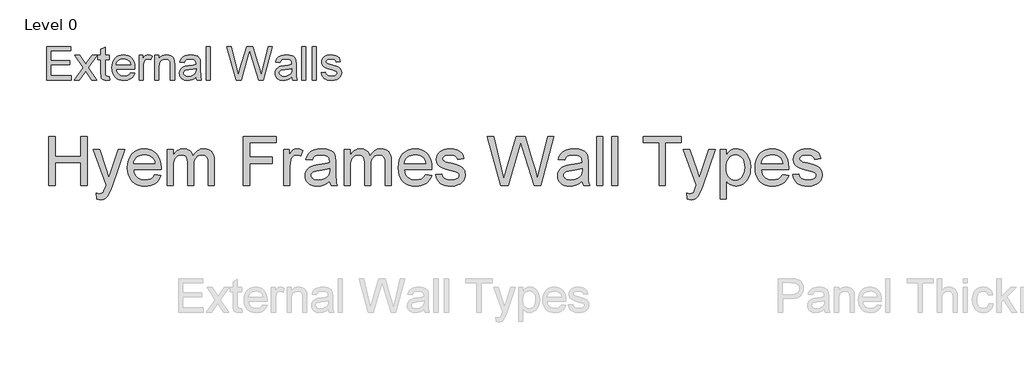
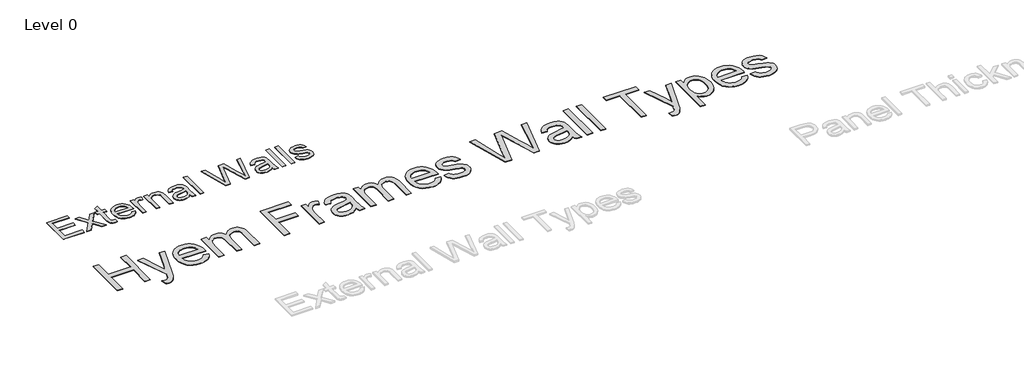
# One storey, part 5 of 11: 2 proxies.
"""IFC4 building model written with IfcOpenShell, lengths in millimetres."""

from ifc_helpers import new_model, si_unit, origin, origin_with_axes, place, context, project, spatial, polyline, outline, extrude, element, save

model = new_model("IFC4")

# Units and contexts
model_context = context("Model", 3, world=origin())
ifc_project = project(units=[si_unit("LENGTHUNIT", "METRE", prefix="MILLI")], contexts=[model_context])

# Site, building, storey
site = spatial("IfcSite", under=ifc_project)
building = spatial("IfcBuilding", under=site)
storey = spatial("IfcBuildingStorey", under=building, Name="Level 0", Elevation=0.0)

# Proxies
placement = place(None, origin())
element("IfcBuildingElementProxy", 1, Name="600mm Arial-700", ObjectType="600mm Arial-700", at=placement, inside=storey, context=model_context, shape_type="SweptSolid", body=[
    extrude(outline(polyline([(8655.2052745, 7494.3952476), (8655.2052745, 8193.8603586), (8742.6384134, 8193.8603586), (8742.6384134, 7909.7026573), (9114.2292537, 7909.7026573), (9114.2292537, 8193.8603586), (9201.6623925, 8193.8603586), (9201.6623925, 7494.3952476), (9114.2292537, 7494.3952476), (9114.2292537, 7822.2695184), (8742.6384134, 7822.2695184), (8742.6384134, 7494.3952476), (8655.2052745, 7494.3952476)])), origin_with_axes(), (0.0, 0.0, 1.0), 8.0),
    extrude(outline(polyline([(9343.7412432, 7297.6706851), (9332.8121009, 7381.8592349), (9356.6342159, 7376.0958199), (9377.2117417, 7374.1746816), (9400.5642451, 7376.5867775), (9418.7083291, 7383.8230651), (9432.8393686, 7395.3712409), (9444.1527387, 7410.7190014), (9468.0602376, 7475.0984806), (9474.8909515, 7496.2736939), (9289.0955314, 8008.0649385), (9381.1394022, 8008.0649385), (9479.8432192, 7722.7118622), (9514.1675569, 7608.6389388), (9548.4918946, 7709.5627378), (9649.7572293, 8008.0649385), (9741.1180287, 8008.0649385), (9562.3240904, 7482.0999624), (9535.7696898, 7412.1705281), (9515.8752354, 7368.0270391), (9492.0958124, 7331.6107952), (9465.1571841, 7306.3798454), (9433.9066677, 7291.6511184), (9397.1915801, 7286.7415428), (9371.7898625, 7289.4738283), (9343.7412432, 7297.6706851)])), origin_with_axes(), (0.0, 0.0, 1.0), 8.0),
    extrude(outline(polyline([(10173.3314555, 7647.4032406), (10259.0569159, 7636.4740983), (10245.913128, 7602.1390876), (10228.1692811, 7571.8811592), (10205.8253753, 7545.7003133), (10178.8814106, 7523.5965498), (10147.6148847, 7506.0394803), (10112.3032953, 7493.4987164), (10072.9466425, 7485.974258), (10029.5449263, 7483.4661052), (9975.2941152, 7487.7940029), (9926.9561408, 7500.777696), (9884.5310032, 7522.4171844), (9848.0187024, 7552.7124682), (9818.6573053, 7590.820381), (9797.6848788, 7635.8977568), (9785.1014229, 7687.9445954), (9780.9069376, 7746.9608968), (9785.1441149, 7807.978384), (9797.8556467, 7861.7595836), (9819.041533, 7908.3044955), (9848.7017738, 7947.6131198), (9885.1180177, 7978.8422903), (9926.5719131, 8001.1488406), (9973.0634601, 8014.5327708), (10024.5926587, 8018.9940809), (10074.4622072, 8014.5434438), (10119.5609289, 8001.1915326), (10159.8888239, 7978.9383472), (10195.445892, 7947.7838877), (10224.4710899, 7908.5606473), (10245.2033741, 7862.1011193), (10257.6427446, 7808.4053036), (10261.7892015, 7747.4732004), (10261.2768979, 7723.9072372), (9868.3400765, 7723.9072372), (9873.4044105, 7689.0172309), (9883.4743772, 7658.4604589), (9898.5499764, 7632.236921), (9918.6312082, 7610.3466173), (9942.6080815, 7593.0883915), (9969.3706054, 7580.7610874), (9998.9187798, 7573.3647049), (10031.2526048, 7570.8992441), (10077.7868438, 7575.4672841), (10116.9780652, 7589.171404), (10133.8200443, 7599.6629537), (10148.8262691, 7612.8654431), (10173.3314555, 7647.4032406)]), holes=[polyline([(9868.3400765, 7811.340376), (10174.3560626, 7811.340376), (10169.8627336, 7836.0803682), (10162.530389, 7857.5330793), (10152.359029, 7875.6985093), (10139.3486535, 7890.5766581), (10115.5051925, 7908.5072823), (10088.3744504, 7921.314871), (10057.9564273, 7928.9994243), (10024.251123, 7931.560942), (9993.5075736, 7929.5170643), (9965.314869, 7923.3854312), (9939.6730091, 7913.1660427), (9916.581994, 7898.8588988), (9897.2051795, 7881.125725), (9882.7059218, 7860.6282466), (9873.0842208, 7837.3664636), (9868.3400765, 7811.340376)])]), origin_with_axes(), (0.0, 0.0, 1.0), 8.0),
    extrude(outline(polyline([(10349.2223404, 7494.3952476), (10349.2223404, 8008.0649385), (10436.6554792, 8008.0649385), (10436.6554792, 7923.5348531), (10462.953728, 7962.3631928), (10496.7657622, 7992.781216), (10516.2012781, 8004.2493444), (10536.9388988, 8012.4408647), (10558.9786243, 8017.3557768), (10582.3204548, 8018.9940809), (10607.8395752, 8017.3237579), (10630.9465999, 8012.3127888), (10651.6415286, 8003.9611736), (10669.9243615, 7992.2689125), (10685.7417335, 7977.5668679), (10699.0402798, 7960.1859028), (10709.8200003, 7940.1260169), (10718.080895, 7917.3872105), (10749.9504449, 7961.8402163), (10786.3026508, 7993.5923633), (10806.1597498, 8004.7056147), (10827.1375128, 8012.6436515), (10849.2359398, 8017.4064735), (10872.4550308, 8018.9940809), (10907.4571035, 8016.3525157), (10938.1793069, 8008.4278202), (10964.6216411, 7995.2199944), (10986.784106, 7976.7290382), (11004.3038201, 7952.7414918), (11016.8179015, 7923.0438955), (11024.3263504, 7887.6362492), (11026.8291667, 7846.518553), (11026.8291667, 7494.3952476), (10939.3960278, 7494.3952476), (10939.3960278, 7808.9496261), (10937.3681596, 7852.5594657), (10931.284555, 7881.9528818), (10919.885801, 7902.082142), (10901.9124849, 7917.8995141), (10878.7947873, 7928.145585), (10851.9628889, 7931.560942), (10827.1855413, 7929.3729789), (10804.5961567, 7922.8090897), (10784.1947352, 7911.8692744), (10765.9812768, 7896.5535329), (10751.0017345, 7876.4135996), (10740.3020614, 7851.0012091), (10733.8822576, 7820.3163611), (10731.742323, 7784.3590558), (10731.742323, 7494.3952476), (10644.3091841, 7494.3952476), (10644.3091841, 7818.6833936), (10639.2501865, 7868.120686), (10632.9264396, 7887.5241828), (10624.0731939, 7903.3842469), (10612.3382408, 7915.711551), (10597.3693715, 7924.5167682), (10579.166586, 7929.7998986), (10557.7298844, 7931.560942), (10524.0459262, 7926.8648261), (10493.0088695, 7912.7764786), (10467.3936921, 7889.637435), (10449.9753715, 7857.7892311), (10439.9854523, 7813.60305), (10436.6554792, 7753.4500751), (10436.6554792, 7494.3952476), (10349.2223404, 7494.3952476)])), origin_with_axes(), (0.0, 0.0, 1.0), 8.0),
    extrude(outline(polyline([(11442.1365764, 7494.3952476), (11442.1365764, 8193.8603586), (11912.0896979, 8193.8603586), (11912.0896979, 8106.4272198), (11529.5697153, 8106.4272198), (11529.5697153, 7898.7735149), (11857.4439861, 7898.7735149), (11857.4439861, 7811.340376), (11529.5697153, 7811.340376), (11529.5697153, 7494.3952476), (11442.1365764, 7494.3952476)])), origin_with_axes(), (0.0, 0.0, 1.0), 8.0),
    extrude(outline(polyline([(12021.3811215, 7494.3952476), (12021.3811215, 8008.0649385), (12097.885118, 8008.0649385), (12097.885118, 7932.0732455), (12126.1471971, 7976.1313507), (12152.1892941, 8002.0880638), (12178.316775, 8014.7675766), (12206.8350059, 8018.9940809), (12228.5225228, 8017.3077484), (12250.3808075, 8012.2487508), (12294.6096805, 7992.0127607), (12265.4083782, 7913.6303178), (12234.6701653, 7927.078286), (12203.9319524, 7931.560942), (12177.8258175, 7927.2490538), (12154.49466, 7914.3133892), (12135.6461587, 7893.7358634), (12122.9879918, 7866.4983914), (12112.3576932, 7817.6587865), (12108.8142603, 7764.3792175), (12108.8142603, 7494.3952476), (12021.3811215, 7494.3952476)])), origin_with_axes(), (0.0, 0.0, 1.0), 8.0),
    extrude(outline(polyline([(12677.1296631, 7559.9701018), (12635.3555779, 7524.1515453), (12592.3434259, 7500.713658), (12547.1112917, 7487.7779934), (12498.6772605, 7483.4661052), (12459.7475273, 7486.0596419), (12425.6099669, 7493.8402521), (12396.2645793, 7506.8079356), (12371.7113645, 7524.9626926), (12352.3238771, 7547.1518401), (12338.4756718, 7572.2226949), (12330.1667486, 7600.1752573), (12327.3971075, 7631.0095271), (12331.5809199, 7667.2550031), (12344.1323568, 7700.1705061), (12363.4931617, 7728.3472012), (12388.105078, 7750.3762538), (12417.0288825, 7767.0261191), (12449.325352, 7779.0652525), (12524.9755093, 7792.2143769), (12614.3724784, 7806.0465727), (12676.6173595, 7822.2695184), (12677.1296631, 7841.7370532), (12675.6247714, 7862.9336125), (12671.1100964, 7880.7575068), (12663.585638, 7895.2087361), (12653.0513963, 7906.2873003), (12634.8432744, 7917.3445185), (12612.6647999, 7925.2425316), (12586.515973, 7929.9813394), (12556.3967936, 7931.560942), (12504.3125995, 7927.3557837), (12484.1619933, 7922.0993358), (12467.9390476, 7914.7403088), (12454.6084823, 7904.7023612), (12443.1350175, 7891.4091514), (12425.7593888, 7855.0569455), (12338.3262499, 7865.9860878), (12353.5032425, 7913.8010857), (12376.1513285, 7951.3700125), (12390.8053446, 7966.664408), (12408.3837601, 7980.1017032), (12452.3137894, 8001.4049924), (12506.041624, 8014.5968088), (12567.6674716, 8018.9940809), (12626.7744935, 8015.1091123), (12673.6289222, 8003.4542066), (12708.956521, 7985.929156), (12733.4830534, 7964.433753), (12749.748691, 7937.8580064), (12760.2936057, 7905.0919253), (12764.5628019, 7828.5879288), (12764.5628019, 7719.8088088), (12765.672793, 7625.0539983), (12769.002766, 7567.9108068), (12775.5773282, 7530.3632259), (12786.4210867, 7494.3952476), (12698.9879478, 7494.3952476), (12684.9849841, 7524.7919248), (12677.1296631, 7559.9701018)]), holes=[polyline([(12677.1296631, 7734.8363795), (12618.3855229, 7720.2784204), (12536.0754195, 7708.0258272), (12490.7152095, 7701.3231891), (12460.8521818, 7693.8520957), (12441.2779171, 7684.1610202), (12426.7839959, 7670.798436), (12417.8186838, 7654.7889501), (12414.8302464, 7637.1571697), (12416.4578775, 7623.5704527), (12421.3407707, 7611.1577646), (12429.478926, 7599.9191055), (12440.8723435, 7589.8544754), (12455.4142931, 7581.5615617), (12472.9980451, 7575.6380519), (12517.290956, 7570.8992441), (12564.2521146, 7576.1290095), (12605.748702, 7591.8183057), (12639.3899684, 7614.9360033), (12662.7851637, 7642.450973), (12673.1593106, 7670.798436), (12676.6173595, 7710.0750414), (12677.1296631, 7734.8363795)])]), origin_with_axes(), (0.0, 0.0, 1.0), 8.0),
    extrude(outline(polyline([(12884.7833679, 7494.3952476), (12884.7833679, 8008.0649385), (12972.2165068, 8008.0649385), (12972.2165068, 7923.5348531), (12998.5147556, 7962.3631928), (13032.3267898, 7992.781216), (13051.7623056, 8004.2493444), (13072.4999263, 8012.4408647), (13094.5396519, 8017.3557768), (13117.8814823, 8018.9940809), (13143.4006028, 8017.3237579), (13166.5076274, 8012.3127888), (13187.2025562, 8003.9611736), (13205.485389, 7992.2689125), (13221.3027611, 7977.5668679), (13234.6013074, 7960.1859028), (13245.3810279, 7940.1260169), (13253.6419226, 7917.3872105), (13285.5114725, 7961.8402163), (13321.8636784, 7993.5923633), (13341.7207774, 8004.7056147), (13362.6985404, 8012.6436515), (13384.7969674, 8017.4064735), (13408.0160584, 8018.9940809), (13443.018131, 8016.3525157), (13473.7403344, 8008.4278202), (13500.1826686, 7995.2199944), (13522.3451336, 7976.7290382), (13539.8648476, 7952.7414918), (13552.3789291, 7923.0438955), (13559.8873779, 7887.6362492), (13562.3901942, 7846.518553), (13562.3901942, 7494.3952476), (13474.9570554, 7494.3952476), (13474.9570554, 7808.9496261), (13472.9291871, 7852.5594657), (13466.8455825, 7881.9528818), (13455.4468286, 7902.082142), (13437.4735124, 7917.8995141), (13414.3558148, 7928.145585), (13387.5239165, 7931.560942), (13362.7465688, 7929.3729789), (13340.1571843, 7922.8090897), (13319.7557628, 7911.8692744), (13301.5423043, 7896.5535329), (13286.562762, 7876.4135996), (13275.863089, 7851.0012091), (13269.4432851, 7820.3163611), (13267.3033505, 7784.3590558), (13267.3033505, 7494.3952476), (13179.8702116, 7494.3952476), (13179.8702116, 7818.6833936), (13174.8112141, 7868.120686), (13168.4874672, 7887.5241828), (13159.6342215, 7903.3842469), (13147.8992683, 7915.711551), (13132.930399, 7924.5167682), (13114.7276136, 7929.7998986), (13093.290912, 7931.560942), (13059.6069537, 7926.8648261), (13028.5698971, 7912.7764786), (13002.9547197, 7889.637435), (12985.536399, 7857.7892311), (12975.5464799, 7813.60305), (12972.2165068, 7753.4500751), (12972.2165068, 7494.3952476), (12884.7833679, 7494.3952476)])), origin_with_axes(), (0.0, 0.0, 1.0), 8.0),
    extrude(outline(polyline([(14053.1769933, 7647.4032406), (14138.9024537, 7636.4740983), (14125.7586658, 7602.1390876), (14108.014819, 7571.8811592), (14085.6709132, 7545.7003133), (14058.7269485, 7523.5965498), (14027.4604225, 7506.0394803), (13992.1488332, 7493.4987164), (13952.7921804, 7485.974258), (13909.3904642, 7483.4661052), (13855.139653, 7487.7940029), (13806.8016787, 7500.777696), (13764.3765411, 7522.4171844), (13727.8642403, 7552.7124682), (13698.5028432, 7590.820381), (13677.5304167, 7635.8977568), (13664.9469608, 7687.9445954), (13660.7524755, 7746.9608968), (13664.9896527, 7807.978384), (13677.7011845, 7861.7595836), (13698.8870708, 7908.3044955), (13728.5473117, 7947.6131198), (13764.9635556, 7978.8422903), (13806.417451, 8001.1488406), (13852.908998, 8014.5327708), (13904.4381965, 8018.9940809), (13954.3077451, 8014.5434438), (13999.4064668, 8001.1915326), (14039.7343617, 7978.9383472), (14075.2914298, 7947.7838877), (14104.3166277, 7908.5606473), (14125.048912, 7862.1011193), (14137.4882825, 7808.4053036), (14141.6347393, 7747.4732004), (14141.1224358, 7723.9072372), (13748.1856144, 7723.9072372), (13753.2499484, 7689.0172309), (13763.319915, 7658.4604589), (13778.3955142, 7632.236921), (13798.476746, 7610.3466173), (13822.4536194, 7593.0883915), (13849.2161432, 7580.7610874), (13878.7643177, 7573.3647049), (13911.0981427, 7570.8992441), (13957.6323816, 7575.4672841), (13996.8236031, 7589.171404), (14013.6655822, 7599.6629537), (14028.671807, 7612.8654431), (14053.1769933, 7647.4032406)]), holes=[polyline([(13748.1856144, 7811.340376), (14054.2016004, 7811.340376), (14049.7082714, 7836.0803682), (14042.3759269, 7857.5330793), (14032.2045668, 7875.6985093), (14019.1941913, 7890.5766581), (13995.3507304, 7908.5072823), (13968.2199883, 7921.314871), (13937.8019651, 7928.9994243), (13904.0966608, 7931.560942), (13873.3531115, 7929.5170643), (13845.1604068, 7923.3854312), (13819.5185469, 7913.1660427), (13796.4275318, 7898.8588988), (13777.0507174, 7881.125725), (13762.5514597, 7860.6282466), (13752.9297587, 7837.3664636), (13748.1856144, 7811.340376)])]), origin_with_axes(), (0.0, 0.0, 1.0), 8.0),
    extrude(outline(polyline([(14196.2804511, 7647.4032406), (14283.71359, 7658.332383), (14288.9967203, 7638.3952366), (14297.5030938, 7620.934224), (14309.2327105, 7605.9493452), (14324.1855703, 7593.4406002), (14342.4043652, 7583.5787569), (14363.9317873, 7576.5345831), (14416.9125125, 7570.8992441), (14469.2528584, 7576.0649716), (14489.5955784, 7582.5221309), (14506.0533299, 7591.5621539), (14518.7541887, 7602.3418744), (14527.8262307, 7614.0181261), (14533.2694559, 7626.590909), (14535.0838643, 7640.0602231), (14533.2587829, 7651.8645507), (14527.7835387, 7662.3454275), (14518.6581318, 7671.5028534), (14505.882562, 7679.3368285), (14473.1378269, 7690.4367387), (14415.8879054, 7704.2689345), (14336.0966278, 7727.3439401), (14284.2258936, 7747.0462807), (14250.9048169, 7768.5416838), (14226.7625122, 7796.9958767), (14212.0978232, 7830.5944511), (14207.2095935, 7867.5229985), (14211.137254, 7901.3990706), (14222.9202356, 7932.670933), (14241.4912392, 7960.1005188), (14265.7829658, 7982.4497611), (14289.9252705, 7996.5167627), (14321.3679008, 8008.3210903), (14357.7201067, 8016.3258332), (14396.5911384, 8018.9940809), (14453.4995243, 8014.7035387), (14502.9795086, 8001.831912), (14542.7684175, 7981.6386138), (14570.603577, 7955.383057), (14589.0465047, 7921.1227572), (14600.6587185, 7876.9152302), (14513.2255796, 7865.9860878), (14502.1897073, 7893.5010576), (14480.3527686, 7914.2280053), (14447.5013035, 7927.2277078), (14403.4218524, 7931.560942), (14353.2161047, 7927.4198217), (14334.3889493, 7922.2434212), (14319.7456062, 7914.9964606), (14300.9184508, 7897.0658364), (14296.211662, 7887.0759172), (14294.6427324, 7876.4029267), (14297.2469421, 7862.9549585), (14305.0595712, 7850.9585171), (14318.4221554, 7840.2428345), (14337.6762304, 7831.6617501), (14412.984852, 7813.0480545), (14490.2359578, 7790.2078547), (14541.3168908, 7771.8930028), (14575.2143089, 7752.2120082), (14600.9148702, 7725.27338), (14610.3658034, 7709.0611073), (14617.1164699, 7690.9917342), (14622.5170032, 7649.281687), (14620.9320641, 7627.4020563), (14616.1772468, 7606.162805), (14597.1579775, 7565.6054408), (14583.0749665, 7547.0824656), (14566.1849589, 7530.7901455), (14546.4879547, 7516.7284804), (14523.9839541, 7504.8974703), (14473.009751, 7488.8239465), (14415.7171376, 7483.4661052), (14368.6599221, 7486.048969), (14327.5582353, 7493.7975601), (14292.4120773, 7506.7118787), (14263.2214481, 7524.7919248), (14239.3779871, 7547.9523144), (14220.273334, 7576.1076635), (14205.9074886, 7609.2579723), (14196.2804511, 7647.4032406)])), origin_with_axes(), (0.0, 0.0, 1.0), 8.0),
    extrude(outline(polyline([(15130.2098194, 7494.3952476), (14939.4621316, 8193.8603586), (15029.6275561, 8193.8603586), (15140.2851225, 7734.1533081), (15174.4386924, 7592.2452253), (15210.9830121, 7717.7595946), (15349.6465058, 8193.8603586), (15479.6008392, 8193.8603586), (15580.3538703, 7848.7385351), (15623.5154443, 7720.662648), (15655.3209562, 7592.2452253), (15688.449919, 7730.0548797), (15799.9613246, 8193.8603586), (15890.2975169, 8193.8603586), (15699.720597, 7494.3952476), (15606.1398156, 7494.3952476), (15438.2750196, 8034.0216516), (15414.8798243, 8109.3302732), (15388.5815755, 8018.6525452), (15235.7443503, 7494.3952476), (15130.2098194, 7494.3952476)])), origin_with_axes(), (0.0, 0.0, 1.0), 8.0),
    extrude(outline(polyline([(16294.6757843, 7559.9701018), (16252.9016991, 7524.1515453), (16209.8895471, 7500.713658), (16164.657413, 7487.7779934), (16116.2233817, 7483.4661052), (16077.2936485, 7486.0596419), (16043.1560881, 7493.8402521), (16013.8107005, 7506.8079356), (15989.2574857, 7524.9626926), (15969.8699983, 7547.1518401), (15956.021793, 7572.2226949), (15947.7128698, 7600.1752573), (15944.9432288, 7631.0095271), (15949.1270411, 7667.2550031), (15961.678478, 7700.1705061), (15981.0392829, 7728.3472012), (16005.6511992, 7750.3762538), (16034.5750037, 7767.0261191), (16066.8714732, 7779.0652525), (16142.5216305, 7792.2143769), (16231.9185996, 7806.0465727), (16294.1634807, 7822.2695184), (16294.6757843, 7841.7370532), (16293.1708926, 7862.9336125), (16288.6562176, 7880.7575068), (16281.1317592, 7895.2087361), (16270.5975175, 7906.2873003), (16252.3893956, 7917.3445185), (16230.2109211, 7925.2425316), (16204.0620942, 7929.9813394), (16173.9429148, 7931.560942), (16121.8587207, 7927.3557837), (16101.7081145, 7922.0993358), (16085.4851688, 7914.7403088), (16072.1546035, 7904.7023612), (16060.6811387, 7891.4091514), (16043.30551, 7855.0569455), (15955.8723711, 7865.9860878), (15971.0493637, 7913.8010857), (15993.6974497, 7951.3700125), (16008.3514658, 7966.664408), (16025.9298813, 7980.1017032), (16069.8599106, 8001.4049924), (16123.5877452, 8014.5968088), (16185.2135928, 8018.9940809), (16244.3206147, 8015.1091123), (16291.1750434, 8003.4542066), (16326.5026422, 7985.929156), (16351.0291746, 7964.433753), (16367.2948122, 7937.8580064), (16377.8397269, 7905.0919253), (16382.1089232, 7828.5879288), (16382.1089232, 7719.8088088), (16383.2189142, 7625.0539983), (16386.5488872, 7567.9108068), (16393.1234494, 7530.3632259), (16403.9672079, 7494.3952476), (16316.534069, 7494.3952476), (16302.5311053, 7524.7919248), (16294.6757843, 7559.9701018)]), holes=[polyline([(16294.6757843, 7734.8363795), (16235.9316441, 7720.2784204), (16153.6215407, 7708.0258272), (16108.2613307, 7701.3231891), (16078.398303, 7693.8520957), (16058.8240383, 7684.1610202), (16044.3301171, 7670.798436), (16035.364805, 7654.7889501), (16032.3763676, 7637.1571697), (16034.0039987, 7623.5704527), (16038.8868919, 7611.1577646), (16047.0250472, 7599.9191055), (16058.4184647, 7589.8544754), (16072.9604143, 7581.5615617), (16090.5441663, 7575.6380519), (16134.8370773, 7570.8992441), (16181.7982358, 7576.1290095), (16223.2948232, 7591.8183057), (16256.9360896, 7614.9360033), (16280.3312849, 7642.450973), (16290.7054318, 7670.798436), (16294.1634807, 7710.0750414), (16294.6757843, 7734.8363795)])]), origin_with_axes(), (0.0, 0.0, 1.0), 8.0),
    extrude(outline(polyline([(16502.3294891, 7494.3952476), (16502.3294891, 8193.8603586), (16589.762628, 8193.8603586), (16589.762628, 7494.3952476), (16502.3294891, 7494.3952476)])), origin_with_axes(), (0.0, 0.0, 1.0), 8.0),
    extrude(outline(polyline([(16720.9123363, 7494.3952476), (16720.9123363, 8193.8603586), (16808.3454752, 8193.8603586), (16808.3454752, 7494.3952476), (16720.9123363, 7494.3952476)])), origin_with_axes(), (0.0, 0.0, 1.0), 8.0),
    extrude(outline(polyline([(17398.5191626, 7494.3952476), (17398.5191626, 8106.4272198), (17169.0071731, 8106.4272198), (17169.0071731, 8193.8603586), (17715.4642911, 8193.8603586), (17715.4642911, 8106.4272198), (17485.9523015, 8106.4272198), (17485.9523015, 7494.3952476), (17398.5191626, 7494.3952476)])), origin_with_axes(), (0.0, 0.0, 1.0), 8.0),
    extrude(outline(polyline([(17802.89743, 7297.6706851), (17791.9682876, 7381.8592349), (17815.7904026, 7376.0958199), (17836.3679285, 7374.1746816), (17859.7204319, 7376.5867775), (17877.8645159, 7383.8230651), (17891.9955554, 7395.3712409), (17903.3089254, 7410.7190014), (17927.2164243, 7475.0984806), (17934.0471383, 7496.2736939), (17748.2517182, 8008.0649385), (17840.295589, 8008.0649385), (17938.9994059, 7722.7118622), (17973.3237437, 7608.6389388), (18007.6480814, 7709.5627378), (18108.9134161, 8008.0649385), (18200.2742155, 8008.0649385), (18021.4802772, 7482.0999624), (17994.9258766, 7412.1705281), (17975.0314221, 7368.0270391), (17951.2519991, 7331.6107952), (17924.3133709, 7306.3798454), (17893.0628544, 7291.6511184), (17856.3477668, 7286.7415428), (17830.9460492, 7289.4738283), (17802.89743, 7297.6706851)])), origin_with_axes(), (0.0, 0.0, 1.0), 8.0),
    extrude(outline(polyline([(18272.8505515, 7297.6706851), (18272.8505515, 8008.0649385), (18360.2836903, 8008.0649385), (18360.2836903, 7922.3394781), (18388.8019212, 7964.6258668), (18420.735509, 7994.8304302), (18438.4526734, 8005.4020274), (18457.9629002, 8012.9531682), (18479.2661894, 8017.4838527), (18502.362541, 8018.9940809), (18532.8552751, 8016.8808287), (18561.4909089, 8010.5410723), (18588.2694423, 7999.9748117), (18613.1908753, 7985.1820467), (18635.7108854, 7966.5470051), (18655.2851501, 7944.4539146), (18671.9136695, 7918.9027752), (18685.5964434, 7889.8935868), (18696.280107, 7858.4189375), (18703.9112953, 7825.4714156), (18710.0162459, 7755.1577536), (18708.2925579, 7716.7830159), (18703.1214939, 7680.3827815), (18694.5030541, 7645.9570504), (18682.4372382, 7613.5058225), (18667.0894777, 7583.8776007), (18648.625204, 7557.9208876), (18627.0444171, 7535.6356832), (18602.3471168, 7517.0219876), (18575.7446878, 7502.3412891), (18548.4485144, 7491.8550758), (18520.4585966, 7485.5633479), (18491.7749344, 7483.4661052), (18451.5804518, 7489.0800983), (18415.6978575, 7505.9220774), (18384.9809906, 7531.345141), (18360.2836903, 7562.7023873), (18360.2836903, 7297.6706851), (18272.8505515, 7297.6706851)]), holes=[polyline([(18360.2836903, 7747.1316647), (18362.6477578, 7704.9946978), (18369.73996, 7668.7492218), (18381.5602971, 7638.3952366), (18398.108769, 7613.9327422), (18418.0299059, 7595.1055868), (18439.9682381, 7581.6576186), (18463.9237654, 7573.5888377), (18489.896488, 7570.8992441), (18516.2427653, 7573.6848947), (18540.6358853, 7582.0418463), (18563.075848, 7595.970099), (18583.5626534, 7615.4696528), (18600.6341018, 7640.8180054), (18612.8279936, 7672.2926547), (18620.1443286, 7709.8936005), (18622.583107, 7753.6208429), (18620.2030301, 7795.3949281), (18613.0627994, 7831.5763662), (18601.1624149, 7862.1651572), (18584.5018766, 7887.1613012), (18564.5327112, 7906.586144), (18542.7064454, 7920.4610318), (18519.0230793, 7928.7859644), (18493.4826129, 7931.560942), (18468.0221938, 7928.6098601), (18444.0666664, 7919.7566144), (18421.6160307, 7905.0012049), (18400.6702867, 7884.3436316), (18383.0011508, 7858.0613923), (18370.3803394, 7826.4319847), (18362.8078526, 7789.4554088), (18360.2836903, 7747.1316647)])]), origin_with_axes(), (0.0, 0.0, 1.0), 8.0),
    extrude(outline(polyline([(19168.0156179, 7647.4032406), (19253.7410783, 7636.4740983), (19240.5972904, 7602.1390876), (19222.8534435, 7571.8811592), (19200.5095377, 7545.7003133), (19173.565573, 7523.5965498), (19142.2990471, 7506.0394803), (19106.9874577, 7493.4987164), (19067.6308049, 7485.974258), (19024.2290887, 7483.4661052), (18969.9782776, 7487.7940029), (18921.6403032, 7500.777696), (18879.2151656, 7522.4171844), (18842.7028648, 7552.7124682), (18813.3414677, 7590.820381), (18792.3690412, 7635.8977568), (18779.7855853, 7687.9445954), (18775.5911, 7746.9608968), (18779.8282773, 7807.978384), (18792.5398091, 7861.7595836), (18813.7256954, 7908.3044955), (18843.3859362, 7947.6131198), (18879.8021801, 7978.8422903), (18921.2560755, 8001.1488406), (18967.7476225, 8014.5327708), (19019.2768211, 8018.9940809), (19069.1463696, 8014.5434438), (19114.2450913, 8001.1915326), (19154.5729863, 7978.9383472), (19190.1300544, 7947.7838877), (19219.1552523, 7908.5606473), (19239.8875365, 7862.1011193), (19252.326907, 7808.4053036), (19256.4733639, 7747.4732004), (19255.9610603, 7723.9072372), (18863.0242389, 7723.9072372), (18868.0885729, 7689.0172309), (18878.1585396, 7658.4604589), (18893.2341388, 7632.236921), (18913.3153706, 7610.3466173), (18937.2922439, 7593.0883915), (18964.0547678, 7580.7610874), (18993.6029422, 7573.3647049), (19025.9367672, 7570.8992441), (19072.4710062, 7575.4672841), (19111.6622276, 7589.171404), (19128.5042067, 7599.6629537), (19143.5104315, 7612.8654431), (19168.0156179, 7647.4032406)]), holes=[polyline([(18863.0242389, 7811.340376), (19169.040225, 7811.340376), (19164.546896, 7836.0803682), (19157.2145514, 7857.5330793), (19147.0431914, 7875.6985093), (19134.0328159, 7890.5766581), (19110.1893549, 7908.5072823), (19083.0586128, 7921.314871), (19052.6405897, 7928.9994243), (19018.9352854, 7931.560942), (18988.191736, 7929.5170643), (18959.9990314, 7923.3854312), (18934.3571715, 7913.1660427), (18911.2661564, 7898.8588988), (18891.8893419, 7881.125725), (18877.3900842, 7860.6282466), (18867.7683832, 7837.3664636), (18863.0242389, 7811.340376)])]), origin_with_axes(), (0.0, 0.0, 1.0), 8.0),
    extrude(outline(polyline([(19311.1190757, 7647.4032406), (19398.5522146, 7658.332383), (19403.8353449, 7638.3952366), (19412.3417184, 7620.934224), (19424.071335, 7605.9493452), (19439.0241949, 7593.4406002), (19457.2429898, 7583.5787569), (19478.7704118, 7576.5345831), (19531.7511371, 7570.8992441), (19584.0914829, 7576.0649716), (19604.434203, 7582.5221309), (19620.8919544, 7591.5621539), (19633.5928132, 7602.3418744), (19642.6648552, 7614.0181261), (19648.1080804, 7626.590909), (19649.9224888, 7640.0602231), (19648.0974074, 7651.8645507), (19642.6221633, 7662.3454275), (19633.4967563, 7671.5028534), (19620.7211866, 7679.3368285), (19587.9764515, 7690.4367387), (19530.72653, 7704.2689345), (19450.9352524, 7727.3439401), (19399.0645181, 7747.0462807), (19365.7434415, 7768.5416838), (19341.6011368, 7796.9958767), (19326.9364477, 7830.5944511), (19322.048218, 7867.5229985), (19325.9758786, 7901.3990706), (19337.7588602, 7932.670933), (19356.3298638, 7960.1005188), (19380.6215904, 7982.4497611), (19404.7638951, 7996.5167627), (19436.2065253, 8008.3210903), (19472.5587313, 8016.3258332), (19511.429763, 8018.9940809), (19568.3381488, 8014.7035387), (19617.8181332, 8001.831912), (19657.6070421, 7981.6386138), (19685.4422015, 7955.383057), (19703.8851292, 7921.1227572), (19715.497343, 7876.9152302), (19628.0642041, 7865.9860878), (19617.0283319, 7893.5010576), (19595.1913931, 7914.2280053), (19562.3399281, 7927.2277078), (19518.260477, 7931.560942), (19468.0547293, 7927.4198217), (19449.2275739, 7922.2434212), (19434.5842308, 7914.9964606), (19415.7570754, 7897.0658364), (19411.0502865, 7887.0759172), (19409.4813569, 7876.4029267), (19412.0855666, 7862.9549585), (19419.8981957, 7850.9585171), (19433.2607799, 7840.2428345), (19452.514855, 7831.6617501), (19527.8234765, 7813.0480545), (19605.0745824, 7790.2078547), (19656.1555153, 7771.8930028), (19690.0529334, 7752.2120082), (19715.7534948, 7725.27338), (19725.2044279, 7709.0611073), (19731.9550945, 7690.9917342), (19737.3556277, 7649.281687), (19735.7706886, 7627.4020563), (19731.0158713, 7606.162805), (19711.9966021, 7565.6054408), (19697.913591, 7547.0824656), (19681.0235834, 7530.7901455), (19661.3265793, 7516.7284804), (19638.8225786, 7504.8974703), (19587.8483756, 7488.8239465), (19530.5557621, 7483.4661052), (19483.4985466, 7486.048969), (19442.3968599, 7493.7975601), (19407.2507019, 7506.7118787), (19378.0600726, 7524.7919248), (19354.2166117, 7547.9523144), (19335.1119585, 7576.1076635), (19320.7461132, 7609.2579723), (19311.1190757, 7647.4032406)])), origin_with_axes(), (0.0, 0.0, 1.0), 8.0),
])
element("IfcBuildingElementProxy", 2, Name="Arial-500 Blanco", ObjectType="Arial-500 Blanco", at=placement, inside=storey, context=model_context, shape_type="SweptSolid", body=[
    extrude(outline(polyline([(8621.1611613, 9007.7439374), (8621.1611613, 9487.3771564), (8965.8975375, 9487.3771564), (8965.8975375, 9427.423004), (8681.1153137, 9427.423004), (8681.1153137, 9285.0318921), (8950.9089994, 9285.0318921), (8950.9089994, 9225.0777398), (8681.1153137, 9225.0777398), (8681.1153137, 9067.6980898), (8973.3918065, 9067.6980898), (8973.3918065, 9007.7439374), (8621.1611613, 9007.7439374)])), origin_with_axes(), (0.0, 0.0, 1.0), 8.0),
    extrude(outline(polyline([(9018.3574208, 9007.7439374), (9146.4625824, 9184.9131416), (9025.8516899, 9359.9745826), (9097.7498335, 9359.9745826), (9155.9475166, 9275.5469579), (9183.2313399, 9235.8507515), (9206.8851265, 9268.4039827), (9273.1625684, 9359.9745826), (9345.294908, 9359.9745826), (9218.5949219, 9184.7960436), (9340.6109898, 9007.7439374), (9268.5957482, 9007.7439374), (9195.0582332, 9114.3030754), (9181.7090665, 9133.8584337), (9090.4897604, 9007.7439374), (9018.3574208, 9007.7439374)])), origin_with_axes(), (0.0, 0.0, 1.0), 8.0),
    extrude(outline(polyline([(9520.473447, 9057.7447637), (9527.967716, 9005.9874681), (9483.1191997, 9000.2496683), (9454.3423775, 9002.7379999), (9432.8841775, 9010.2029944), (9417.7199925, 9021.7078684), (9407.8252154, 9036.3158381), (9402.3801605, 9061.4040747), (9400.5651422, 9104.3497493), (9400.5651422, 9300.0204302), (9355.5995279, 9300.0204302), (9355.5995279, 9359.9745826), (9400.5651422, 9359.9745826), (9400.5651422, 9445.5731869), (9460.5192946, 9480.819671), (9460.5192946, 9359.9745826), (9520.473447, 9359.9745826), (9520.473447, 9300.0204302), (9460.5192946, 9300.0204302), (9460.5192946, 9106.1062186), (9463.6809394, 9075.1923588), (9473.9270103, 9064.2437001), (9494.3606033, 9060.2038207), (9520.473447, 9057.7447637)])), origin_with_axes(), (0.0, 0.0, 1.0), 8.0),
    extrude(outline(polyline([(9827.0358902, 9112.6637041), (9885.819063, 9105.169435), (9876.8061799, 9081.6254277), (9864.6389706, 9060.877134), (9849.3174352, 9042.9245539), (9830.8415737, 9027.7676875), (9809.4016702, 9015.7285541), (9785.1880089, 9007.1291731), (9758.2005899, 9001.9695445), (9728.439413, 9000.2496683), (9691.2388568, 9003.2173696), (9658.0928172, 9012.1204734), (9629.0012943, 9026.9589798), (9603.9642881, 9047.7328886), (9583.8307586, 9073.8640289), (9569.4496662, 9104.7742294), (9560.8210107, 9140.4634902), (9557.9447922, 9180.9318111), (9560.8502852, 9222.7723738), (9569.5667641, 9259.6509106), (9584.094229, 9291.5674217), (9604.4326799, 9318.5219069), (9629.4038186, 9339.9361952), (9657.8293469, 9355.2321155), (9689.7092648, 9364.4096676), (9725.0435724, 9367.4688516), (9759.2398342, 9364.4169862), (9790.164672, 9355.26139), (9817.8180856, 9340.0020628), (9842.2000752, 9318.6390049), (9862.103068, 9291.7430686), (9876.3194915, 9259.8851065), (9884.8493456, 9223.0651187), (9887.6926303, 9181.283105), (9887.3413364, 9165.1235874), (9617.8989446, 9165.1235874), (9621.3716308, 9141.1990117), (9628.2767507, 9120.2457966), (9638.6143045, 9102.263942), (9652.384292, 9087.2534481), (9668.8255766, 9075.4192361), (9687.1770215, 9066.9662276), (9707.4386269, 9061.8944224), (9729.6103926, 9060.2038207), (9761.519585, 9063.336191), (9788.3935654, 9072.7333018), (9810.2323338, 9088.9806429), (9827.0358902, 9112.6637041)]), holes=[polyline([(9617.8989446, 9225.0777398), (9827.7384779, 9225.0777398), (9819.6294446, 9256.7527363), (9803.7333974, 9279.4111903), (9787.3835956, 9291.7064755), (9768.7796581, 9300.488822), (9747.9215851, 9305.75823), (9724.8093765, 9307.5146993), (9684.3959451, 9301.9086347), (9666.8129555, 9294.9010541), (9650.9791166, 9285.0904411), (9637.6921581, 9272.9305505), (9627.74981, 9258.8751367), (9621.1520721, 9242.9241998), (9617.8989446, 9225.0777398)])]), origin_with_axes(), (0.0, 0.0, 1.0), 8.0),
    extrude(outline(polyline([(9947.6467827, 9007.7439374), (9947.6467827, 9359.9745826), (10000.106666, 9359.9745826), (10000.106666, 9307.8659931), (10019.4863773, 9338.0772652), (10037.3438153, 9355.8761542), (10055.2598022, 9364.5706773), (10074.8151605, 9367.4688516), (10104.6751388, 9362.8434825), (10135.0035088, 9348.9673749), (10114.9797587, 9295.2194141), (10093.902127, 9304.440878), (10072.8244953, 9307.5146993), (10054.9231456, 9304.5579759), (10038.9246377, 9295.6878059), (10025.999951, 9281.5775025), (10017.3200652, 9262.9003789), (10010.0307176, 9229.410364), (10007.600935, 9192.8758024), (10007.600935, 9007.7439374), (9947.6467827, 9007.7439374)])), origin_with_axes(), (0.0, 0.0, 1.0), 8.0),
    extrude(outline(polyline([(10172.4748541, 9007.7439374), (10172.4748541, 9359.9745826), (10232.4290064, 9359.9745826), (10232.4290064, 9310.793442), (10253.257805, 9335.5889337), (10278.2728554, 9353.2999992), (10307.4741576, 9363.9266385), (10340.8617117, 9367.4688516), (10370.4143078, 9364.614589), (10397.4785724, 9356.0518011), (10420.049203, 9342.8490068), (10436.1208972, 9326.074725), (10447.0256441, 9305.7728672), (10454.0954331, 9281.9873453), (10457.2570778, 9224.0238582), (10457.2570778, 9007.7439374), (10397.3029255, 9007.7439374), (10397.3029255, 9215.9440994), (10395.5757307, 9246.9457826), (10390.3941462, 9268.9894725), (10380.8360257, 9284.783059), (10365.9792228, 9297.0344324), (10346.9361681, 9304.8946326), (10324.819292, 9307.5146993), (10289.7045431, 9301.6305271), (10274.0902628, 9294.2753119), (10259.7713787, 9283.9780105), (10247.8090908, 9269.5676436), (10239.2645995, 9249.8732315), (10234.1379047, 9224.8947742), (10232.4290064, 9194.6322718), (10232.4290064, 9007.7439374), (10172.4748541, 9007.7439374)])), origin_with_axes(), (0.0, 0.0, 1.0), 8.0),
    extrude(outline(polyline([(10764.5221088, 9052.7095517), (10735.8770218, 9028.1482559), (10706.3829747, 9012.0765617), (10675.3666542, 9003.2063917), (10642.154747, 9000.2496683), (10615.4600728, 9002.0280935), (10592.05146, 9007.363369), (10571.9289085, 9016.2554949), (10555.0924183, 9028.7044711), (10541.7981412, 9043.9198865), (10532.302229, 9061.1113299), (10526.6046817, 9080.2788012), (10524.7054993, 9101.4223005), (10527.5743991, 9126.2763412), (10536.1810987, 9148.8469718), (10549.4570793, 9168.1681342), (10566.3338219, 9183.2737702), (10586.1672878, 9194.6908207), (10608.3134383, 9202.9462265), (10660.1878319, 9211.9627689), (10721.4886107, 9221.4477032), (10764.1708149, 9232.5720088), (10764.5221088, 9245.9211755), (10760.3944059, 9272.678058), (10748.0112973, 9290.1842021), (10720.3176312, 9303.182075), (10681.7338554, 9307.5146993), (10646.0189795, 9304.6311622), (10621.0771153, 9295.9805508), (10604.0686375, 9279.9820429), (10592.1539207, 9255.0548159), (10532.1997683, 9262.549085), (10542.606849, 9295.3365121), (10558.1369651, 9321.0980619), (10580.2392039, 9340.7997927), (10610.3626525, 9355.4077624), (10647.2045962, 9364.4535793), (10689.4623203, 9367.4688516), (10729.9928496, 9364.8048732), (10762.1216007, 9356.8129378), (10786.3462399, 9344.7957603), (10803.1644335, 9330.0560554), (10814.3180136, 9311.8326863), (10821.5488123, 9289.3645164), (10824.4762611, 9236.9046331), (10824.4762611, 9162.3132365), (10827.5208079, 9058.1546065), (10839.4647992, 9007.7439374), (10779.5106469, 9007.7439374), (10769.9086146, 9028.5873732), (10764.5221088, 9052.7095517)]), holes=[polyline([(10764.5221088, 9172.6178564), (10724.2404126, 9162.6352559), (10667.7991989, 9154.2334777), (10616.2175502, 9144.5143475), (10602.7951972, 9137.8690386), (10592.8565084, 9128.7061237), (10586.7088658, 9117.7281906), (10584.6596516, 9105.6378268), (10589.1240111, 9087.8096633), (10602.5170896, 9073.2016936), (10624.5461422, 9063.4532889), (10654.918424, 9060.2038207), (10687.1203613, 9063.7899456), (10715.5751641, 9074.5483201), (10738.643461, 9090.4004556), (10754.6858806, 9109.2678634), (10761.7995813, 9128.7061237), (10764.1708149, 9155.6386531), (10764.5221088, 9172.6178564)])]), origin_with_axes(), (0.0, 0.0, 1.0), 8.0),
    extrude(outline(polyline([(10906.9132207, 9007.7439374), (10906.9132207, 9487.3771564), (10966.867373, 9487.3771564), (10966.867373, 9007.7439374), (10906.9132207, 9007.7439374)])), origin_with_axes(), (0.0, 0.0, 1.0), 8.0),
    extrude(outline(polyline([(11337.482397, 9007.7439374), (11206.6839825, 9487.3771564), (11268.5117022, 9487.3771564), (11344.3911763, 9172.1494646), (11367.8107671, 9074.841065), (11392.8697292, 9160.908061), (11487.9532677, 9487.3771564), (11577.0648106, 9487.3771564), (11646.1526034, 9250.7221916), (11675.7491112, 9162.8987263), (11697.5586051, 9074.841065), (11720.2756082, 9169.3391137), (11796.740572, 9487.3771564), (11858.6853896, 9487.3771564), (11728.0040731, 9007.7439374), (11663.8343944, 9007.7439374), (11548.7271058, 9377.7734716), (11532.6846861, 9429.4136692), (11514.6516012, 9367.2346557), (11409.8489325, 9007.7439374), (11337.482397, 9007.7439374)])), origin_with_axes(), (0.0, 0.0, 1.0), 8.0),
    extrude(outline(polyline([(12135.9733444, 9052.7095517), (12107.3282574, 9028.1482559), (12077.8342103, 9012.0765617), (12046.8178897, 9003.2063917), (12013.6059826, 9000.2496683), (11986.9113084, 9002.0280935), (11963.5026956, 9007.363369), (11943.3801441, 9016.2554949), (11926.5436539, 9028.7044711), (11913.2493768, 9043.9198865), (11903.7534646, 9061.1113299), (11898.0559173, 9080.2788012), (11896.1567349, 9101.4223005), (11899.0256347, 9126.2763412), (11907.6323343, 9148.8469718), (11920.9083149, 9168.1681342), (11937.7850575, 9183.2737702), (11957.6185234, 9194.6908207), (11979.7646739, 9202.9462265), (12031.6390675, 9211.9627689), (12092.9398463, 9221.4477032), (12135.6220505, 9232.5720088), (12135.9733444, 9245.9211755), (12131.8456415, 9272.678058), (12119.4625329, 9290.1842021), (12091.7688668, 9303.182075), (12053.185091, 9307.5146993), (12017.4702151, 9304.6311622), (11992.5283509, 9295.9805508), (11975.5198731, 9279.9820429), (11963.6051563, 9255.0548159), (11903.6510039, 9262.549085), (11914.0580846, 9295.3365121), (11929.5882007, 9321.0980619), (11951.6904395, 9340.7997927), (11981.8138881, 9355.4077624), (12018.6558318, 9364.4535793), (12060.9135559, 9367.4688516), (12101.4440852, 9364.8048732), (12133.5728363, 9356.8129378), (12157.7974755, 9344.7957603), (12174.6156691, 9330.0560554), (12185.7692492, 9311.8326863), (12193.0000479, 9289.3645164), (12195.9274967, 9236.9046331), (12195.9274967, 9162.3132365), (12198.9720435, 9058.1546065), (12210.9160348, 9007.7439374), (12150.9618825, 9007.7439374), (12141.3598502, 9028.5873732), (12135.9733444, 9052.7095517)]), holes=[polyline([(12135.9733444, 9172.6178564), (12095.6916482, 9162.6352559), (12039.2504345, 9154.2334777), (11987.6687858, 9144.5143475), (11974.2464328, 9137.8690386), (11964.307744, 9128.7061237), (11958.1601014, 9117.7281906), (11956.1108872, 9105.6378268), (11960.5752467, 9087.8096633), (11973.9683252, 9073.2016936), (11995.9973778, 9063.4532889), (12026.3696596, 9060.2038207), (12058.5715969, 9063.7899456), (12087.0263997, 9074.5483201), (12110.0946966, 9090.4004556), (12126.1371162, 9109.2678634), (12133.2508169, 9128.7061237), (12135.6220505, 9155.6386531), (12135.9733444, 9172.6178564)])]), origin_with_axes(), (0.0, 0.0, 1.0), 8.0),
    extrude(outline(polyline([(12278.3644563, 9007.7439374), (12278.3644563, 9487.3771564), (12338.3186086, 9487.3771564), (12338.3186086, 9007.7439374), (12278.3644563, 9007.7439374)])), origin_with_axes(), (0.0, 0.0, 1.0), 8.0),
    extrude(outline(polyline([(12428.2498372, 9007.7439374), (12428.2498372, 9487.3771564), (12488.2039896, 9487.3771564), (12488.2039896, 9007.7439374), (12428.2498372, 9007.7439374)])), origin_with_axes(), (0.0, 0.0, 1.0), 8.0),
    extrude(outline(polyline([(12555.652411, 9112.6637041), (12615.6065634, 9120.1579731), (12625.0622231, 9094.5135212), (12643.3587784, 9075.6607506), (12670.6133272, 9064.0680532), (12706.9429674, 9060.2038207), (12742.8334902, 9063.7460338), (12768.0680993, 9074.3726731), (12782.9980884, 9089.7710541), (12787.9747514, 9107.628492), (12782.9688139, 9122.909775), (12767.9510013, 9134.5610214), (12706.2403797, 9151.6573227), (12651.5263607, 9167.4801837), (12615.9578572, 9180.9903601), (12593.109119, 9195.7300651), (12576.5543958, 9215.2415116), (12566.498609, 9238.2805341), (12563.14668, 9263.6029666), (12565.839933, 9286.8322732), (12573.9196918, 9308.275836), (12586.6540943, 9327.0846948), (12603.3112782, 9342.4098895), (12619.8660014, 9352.0558335), (12641.4266622, 9360.1502295), (12666.3538891, 9365.6391961), (12693.0083109, 9367.4688516), (12732.031204, 9364.5267656), (12765.9603361, 9355.7005073), (12793.2441594, 9341.8536742), (12812.3311259, 9323.8498638), (12824.9777049, 9300.3570868), (12832.9403657, 9270.043354), (12772.9862134, 9262.549085), (12765.4187581, 9281.4164928), (12750.4448572, 9295.629257), (12727.9181384, 9304.5433387), (12697.692229, 9307.5146993), (12663.2654306, 9304.6750739), (12640.3142316, 9296.1561977), (12627.4041822, 9283.8609126), (12623.1008324, 9269.6920602), (12624.8865762, 9260.4705963), (12630.2438076, 9252.244465), (12639.4067225, 9244.8965684), (12652.6095168, 9239.0123963), (12704.2497144, 9226.2487193), (12792.2488268, 9198.0281124), (12815.4927706, 9184.5325732), (12833.1160127, 9166.060371), (12844.225681, 9142.5529568), (12847.9289038, 9113.9517815), (12843.5816423, 9084.3845482), (12830.5398577, 9056.5737842), (12809.3012163, 9032.7004388), (12780.3633844, 9014.9454616), (12745.4096452, 9003.9236166), (12706.1232817, 9000.2496683), (12673.8554768, 9002.0207749), (12645.671463, 9007.3340946), (12621.5712404, 9016.1896273), (12601.5548089, 9028.5873732), (12585.2050071, 9044.4687832), (12572.1046735, 9063.7753083), (12562.2538081, 9086.5069486), (12555.652411, 9112.6637041)])), origin_with_axes(), (0.0, 0.0, 1.0), 8.0),
])

save(model, "model.ifc")
